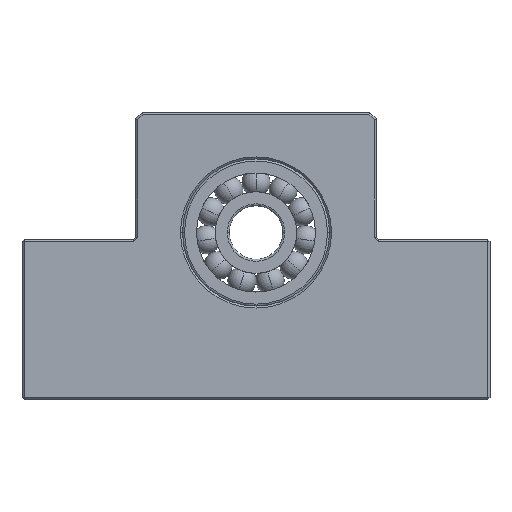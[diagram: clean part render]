
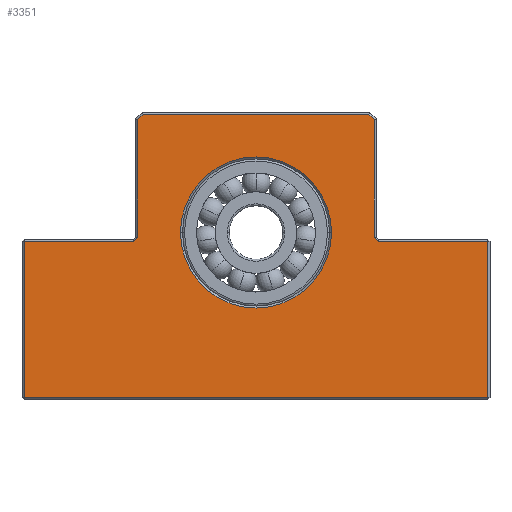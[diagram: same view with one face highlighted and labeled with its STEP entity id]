
A CAD part, top view. The second image highlights one B-rep face of the part: STEP entity #3351.
In plain terms, the highlighted planar face has unit normal (0, 0, 1).
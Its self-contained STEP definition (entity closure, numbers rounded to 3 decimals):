
#1 = CIRCLE ( 'NONE', #4429, 11.3 ) ;
#136 = CARTESIAN_POINT ( 'NONE',  ( 18.3, 23.7, 10. ) ) ;
#202 = VECTOR ( 'NONE', #1935, 1000. ) ;
#217 = LINE ( 'NONE', #136, #3597 ) ;
#416 = LINE ( 'NONE', #2351, #4564 ) ;
#438 = FACE_OUTER_BOUND ( 'NONE', #1300, .T. ) ;
#484 = VECTOR ( 'NONE', #4960, 1000. ) ;
#563 = CARTESIAN_POINT ( 'NONE',  ( 17.7, 41.876, 10. ) ) ;
#631 = LINE ( 'NONE', #6649, #202 ) ;
#682 = DIRECTION ( 'NONE',  ( 0.707, -0.707, 0. ) ) ;
#864 = VERTEX_POINT ( 'NONE', #4805 ) ;
#879 = AXIS2_PLACEMENT_3D ( 'NONE', #1585, #6388, #985 ) ;
#985 = DIRECTION ( 'NONE',  ( 0., -1., 0. ) ) ;
#1033 = EDGE_CURVE ( 'NONE', #5823, #6735, #4648, .T. ) ;
#1039 = LINE ( 'NONE', #1483, #2767 ) ;
#1079 = VERTEX_POINT ( 'NONE', #3744 ) ;
#1116 = LINE ( 'NONE', #7095, #5480 ) ;
#1125 = EDGE_CURVE ( 'NONE', #2611, #5823, #6172, .T. ) ;
#1300 = EDGE_LOOP ( 'NONE', ( #4288, #7331, #2963, #1468, #1783, #4182, #7324, #4300, #3448, #2255, #6490, #6533 ) ) ;
#1468 = ORIENTED_EDGE ( 'NONE', *, *, #1033, .T. ) ;
#1474 = CARTESIAN_POINT ( 'NONE',  ( -11.3, 25., 10. ) ) ;
#1483 = CARTESIAN_POINT ( 'NONE',  ( 0., 23.7, 10. ) ) ;
#1530 = DIRECTION ( 'NONE',  ( 1., 0., 0. ) ) ;
#1545 = CARTESIAN_POINT ( 'NONE',  ( -34.7, 23.7, 10. ) ) ;
#1585 = CARTESIAN_POINT ( 'NONE',  ( 0., 0., 10. ) ) ;
#1706 = EDGE_CURVE ( 'NONE', #1079, #2510, #1116, .T. ) ;
#1756 = EDGE_CURVE ( 'NONE', #2465, #5696, #5435, .T. ) ;
#1783 = ORIENTED_EDGE ( 'NONE', *, *, #5657, .T. ) ;
#1935 = DIRECTION ( 'NONE',  ( -0.707, -0.707, 0. ) ) ;
#2009 = AXIS2_PLACEMENT_3D ( 'NONE', #6937, #4654, #3991 ) ;
#2255 = ORIENTED_EDGE ( 'NONE', *, *, #7092, .T. ) ;
#2303 = FACE_BOUND ( 'NONE', #7229, .T. ) ;
#2351 = CARTESIAN_POINT ( 'NONE',  ( 17.7, 0., 10. ) ) ;
#2446 = CARTESIAN_POINT ( 'NONE',  ( -16.876, 42.7, 10. ) ) ;
#2465 = VERTEX_POINT ( 'NONE', #3443 ) ;
#2510 = VERTEX_POINT ( 'NONE', #3997 ) ;
#2611 = VERTEX_POINT ( 'NONE', #563 ) ;
#2618 = CARTESIAN_POINT ( 'NONE',  ( 34.7, 0.3, 10. ) ) ;
#2657 = VERTEX_POINT ( 'NONE', #2618 ) ;
#2743 = EDGE_CURVE ( 'NONE', #6024, #6064, #6138, .T. ) ;
#2767 = VECTOR ( 'NONE', #3452, 1000. ) ;
#2770 = VERTEX_POINT ( 'NONE', #1545 ) ;
#2806 = DIRECTION ( 'NONE',  ( -1., 0., 0. ) ) ;
#2963 = ORIENTED_EDGE ( 'NONE', *, *, #1125, .T. ) ;
#3033 = CARTESIAN_POINT ( 'NONE',  ( -17.7, 0., 10. ) ) ;
#3351 = ADVANCED_FACE ( 'NONE', ( #2303, #438 ), #4768, .F. ) ;
#3359 = ORIENTED_EDGE ( 'NONE', *, *, #6813, .T. ) ;
#3431 = LINE ( 'NONE', #4612, #3604 ) ;
#3443 = CARTESIAN_POINT ( 'NONE',  ( 34.7, 23.7, 10. ) ) ;
#3448 = ORIENTED_EDGE ( 'NONE', *, *, #6278, .T. ) ;
#3452 = DIRECTION ( 'NONE',  ( -1., 0., 0. ) ) ;
#3597 = VECTOR ( 'NONE', #682, 1000. ) ;
#3604 = VECTOR ( 'NONE', #5824, 1000. ) ;
#3642 = DIRECTION ( 'NONE',  ( -1., 0., 0. ) ) ;
#3744 = CARTESIAN_POINT ( 'NONE',  ( -18.3, 23.7, 10. ) ) ;
#3755 = VECTOR ( 'NONE', #2806, 1000. ) ;
#3792 = EDGE_CURVE ( 'NONE', #5933, #2510, #7007, .T. ) ;
#3862 = VERTEX_POINT ( 'NONE', #5528 ) ;
#3949 = DIRECTION ( 'NONE',  ( -1., 0., 0. ) ) ;
#3974 = CARTESIAN_POINT ( 'NONE',  ( 0., 0.3, 10. ) ) ;
#3991 = DIRECTION ( 'NONE',  ( -1., 0., 0. ) ) ;
#3997 = CARTESIAN_POINT ( 'NONE',  ( -17.7, 24.3, 10. ) ) ;
#4009 = DIRECTION ( 'NONE',  ( 0., 1., 0. ) ) ;
#4151 = ORIENTED_EDGE ( 'NONE', *, *, #2743, .T. ) ;
#4152 = EDGE_CURVE ( 'NONE', #864, #5696, #217, .T. ) ;
#4182 = ORIENTED_EDGE ( 'NONE', *, *, #3792, .T. ) ;
#4186 = DIRECTION ( 'NONE',  ( 0., -1., 0. ) ) ;
#4288 = ORIENTED_EDGE ( 'NONE', *, *, #4152, .F. ) ;
#4300 = ORIENTED_EDGE ( 'NONE', *, *, #7660, .T. ) ;
#4429 = AXIS2_PLACEMENT_3D ( 'NONE', #7318, #6256, #3949 ) ;
#4564 = VECTOR ( 'NONE', #4009, 1000. ) ;
#4612 = CARTESIAN_POINT ( 'NONE',  ( 34.7, 0., 10. ) ) ;
#4648 = LINE ( 'NONE', #5203, #3755 ) ;
#4654 = DIRECTION ( 'NONE',  ( 0., 0., -1. ) ) ;
#4695 = EDGE_CURVE ( 'NONE', #2657, #2465, #3431, .T. ) ;
#4768 = PLANE ( 'NONE',  #879 ) ;
#4805 = CARTESIAN_POINT ( 'NONE',  ( 17.7, 24.3, 10. ) ) ;
#4960 = DIRECTION ( 'NONE',  ( -0.707, 0.707, 0. ) ) ;
#5159 = LINE ( 'NONE', #3974, #6215 ) ;
#5167 = VECTOR ( 'NONE', #7624, 1000. ) ;
#5203 = CARTESIAN_POINT ( 'NONE',  ( 0., 42.7, 10. ) ) ;
#5422 = CARTESIAN_POINT ( 'NONE',  ( 11.3, 25., 10. ) ) ;
#5435 = LINE ( 'NONE', #6621, #5985 ) ;
#5480 = VECTOR ( 'NONE', #7683, 1000. ) ;
#5528 = CARTESIAN_POINT ( 'NONE',  ( -34.7, 0.3, 10. ) ) ;
#5657 = EDGE_CURVE ( 'NONE', #6735, #5933, #631, .T. ) ;
#5696 = VERTEX_POINT ( 'NONE', #6892 ) ;
#5815 = CARTESIAN_POINT ( 'NONE',  ( 16.876, 42.7, 10. ) ) ;
#5823 = VERTEX_POINT ( 'NONE', #5815 ) ;
#5824 = DIRECTION ( 'NONE',  ( 0., 1., 0. ) ) ;
#5933 = VERTEX_POINT ( 'NONE', #7114 ) ;
#5985 = VECTOR ( 'NONE', #3642, 1000. ) ;
#6024 = VERTEX_POINT ( 'NONE', #5422 ) ;
#6064 = VERTEX_POINT ( 'NONE', #1474 ) ;
#6138 = CIRCLE ( 'NONE', #2009, 11.3 ) ;
#6172 = LINE ( 'NONE', #6926, #484 ) ;
#6206 = VECTOR ( 'NONE', #4186, 1000. ) ;
#6215 = VECTOR ( 'NONE', #1530, 1000. ) ;
#6256 = DIRECTION ( 'NONE',  ( 0., 0., -1. ) ) ;
#6278 = EDGE_CURVE ( 'NONE', #2770, #3862, #7788, .T. ) ;
#6388 = DIRECTION ( 'NONE',  ( 0., 0., -1. ) ) ;
#6490 = ORIENTED_EDGE ( 'NONE', *, *, #4695, .T. ) ;
#6533 = ORIENTED_EDGE ( 'NONE', *, *, #1756, .T. ) ;
#6621 = CARTESIAN_POINT ( 'NONE',  ( 0., 23.7, 10. ) ) ;
#6649 = CARTESIAN_POINT ( 'NONE',  ( -17.788, 41.788, 10. ) ) ;
#6735 = VERTEX_POINT ( 'NONE', #2446 ) ;
#6740 = CARTESIAN_POINT ( 'NONE',  ( -34.7, 0., 10. ) ) ;
#6813 = EDGE_CURVE ( 'NONE', #6064, #6024, #1, .T. ) ;
#6892 = CARTESIAN_POINT ( 'NONE',  ( 18.3, 23.7, 10. ) ) ;
#6926 = CARTESIAN_POINT ( 'NONE',  ( 16.788, 42.788, 10. ) ) ;
#6937 = CARTESIAN_POINT ( 'NONE',  ( 0., 25., 10. ) ) ;
#7007 = LINE ( 'NONE', #3033, #5167 ) ;
#7092 = EDGE_CURVE ( 'NONE', #3862, #2657, #5159, .T. ) ;
#7095 = CARTESIAN_POINT ( 'NONE',  ( -17.7, 24.3, 10. ) ) ;
#7114 = CARTESIAN_POINT ( 'NONE',  ( -17.7, 41.876, 10. ) ) ;
#7193 = EDGE_CURVE ( 'NONE', #864, #2611, #416, .T. ) ;
#7229 = EDGE_LOOP ( 'NONE', ( #4151, #3359 ) ) ;
#7318 = CARTESIAN_POINT ( 'NONE',  ( 0., 25., 10. ) ) ;
#7324 = ORIENTED_EDGE ( 'NONE', *, *, #1706, .F. ) ;
#7331 = ORIENTED_EDGE ( 'NONE', *, *, #7193, .T. ) ;
#7624 = DIRECTION ( 'NONE',  ( 0., -1., 0. ) ) ;
#7660 = EDGE_CURVE ( 'NONE', #1079, #2770, #1039, .T. ) ;
#7683 = DIRECTION ( 'NONE',  ( 0.707, 0.707, 0. ) ) ;
#7788 = LINE ( 'NONE', #6740, #6206 ) ;
